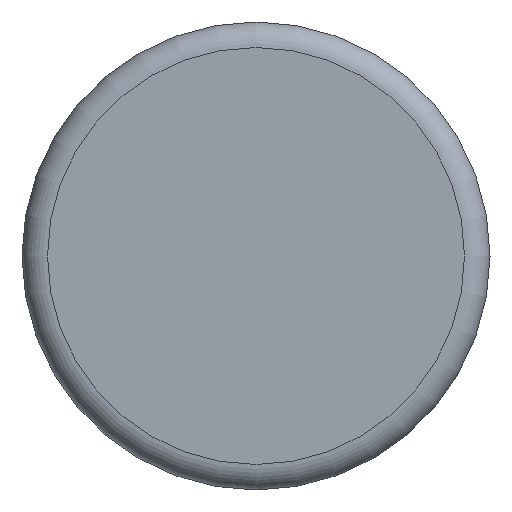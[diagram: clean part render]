
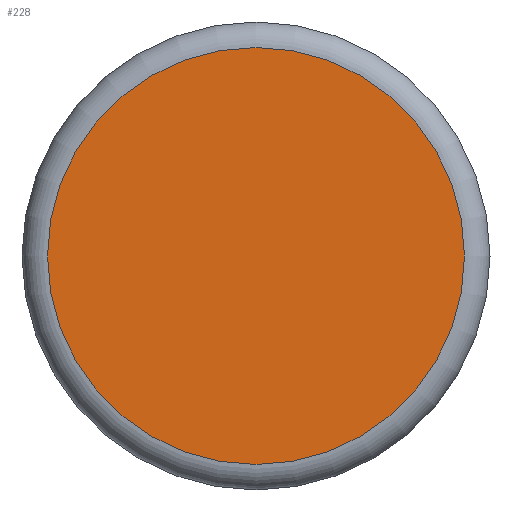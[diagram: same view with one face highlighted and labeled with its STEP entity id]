
A CAD part, left-side view. The second image highlights one B-rep face of the part: STEP entity #228.
In plain terms, the highlighted planar face has unit normal (-1, 0, 0).
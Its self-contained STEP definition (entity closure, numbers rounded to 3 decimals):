
#12 = EDGE_LOOP ( 'NONE', ( #95 ) ) ;
#26 = EDGE_CURVE ( 'NONE', #218, #218, #45, .T. ) ;
#45 = CIRCLE ( 'NONE', #301, 24.5 ) ;
#82 = DIRECTION ( 'NONE',  ( 0., 0., -1. ) ) ;
#95 = ORIENTED_EDGE ( 'NONE', *, *, #26, .T. ) ;
#117 = AXIS2_PLACEMENT_3D ( 'NONE', #246, #145, #82 ) ;
#145 = DIRECTION ( 'NONE',  ( 1., 0., 0. ) ) ;
#164 = PLANE ( 'NONE',  #117 ) ;
#218 = VERTEX_POINT ( 'NONE', #307 ) ;
#220 = FACE_OUTER_BOUND ( 'NONE', #12, .T. ) ;
#228 = ADVANCED_FACE ( 'NONE', ( #220 ), #164, .F. ) ;
#232 = DIRECTION ( 'NONE',  ( -1., 0., 0. ) ) ;
#233 = CARTESIAN_POINT ( 'NONE',  ( -156., 0., 0. ) ) ;
#234 = DIRECTION ( 'NONE',  ( 0., 0., -1. ) ) ;
#246 = CARTESIAN_POINT ( 'NONE',  ( -156., 0., 0. ) ) ;
#301 = AXIS2_PLACEMENT_3D ( 'NONE', #233, #232, #234 ) ;
#307 = CARTESIAN_POINT ( 'NONE',  ( -156., 0., -24.5 ) ) ;
